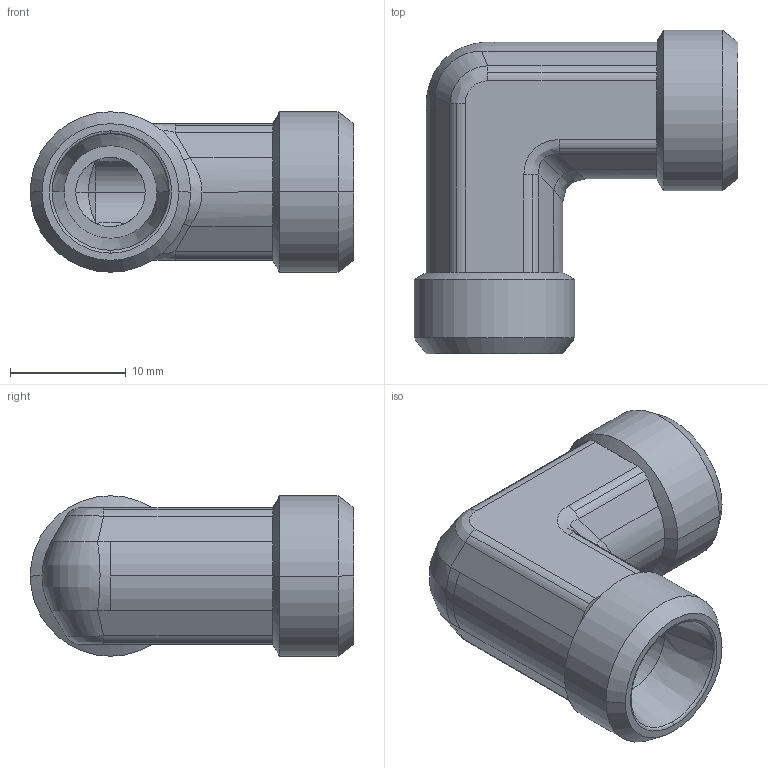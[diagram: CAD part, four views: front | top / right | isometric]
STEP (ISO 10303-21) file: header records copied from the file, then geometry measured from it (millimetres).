
FILE_DESCRIPTION((''),'2;1');
FILE_NAME('103805.stp','2007-10-31T11:54:03',(''),(''),'AutoCAD STEP 2000i','AutoCAD 2000i',', , ');
FILE_SCHEMA(('CONFIG_CONTROL_DESIGN'));
Length unit declared in the file: millimetre
Products named in the file (2): 103805.0; 3090#0
Assembly tree (1 placements, depth 2):
  103805.0
    3090#0
Bounding box: 27.93 x 27.93 x 13.85 mm (x, y, z)
Volume: 3603.7 mm3; surface area: 2760.9 mm2
Topology: 1 solids, 1 shells, 104 faces, 234 edges, 134 vertices
Faces by surface type: cylinder 44, plane 26, cone 20, bspline 14
Entity records: 3735 total; most frequent: CARTESIAN_POINT 1302, DIRECTION 526, ORIENTED_EDGE 468, EDGE_CURVE 234, AXIS2_PLACEMENT_3D 218, VERTEX_POINT 134, CIRCLE 108, EDGE_LOOP 108
